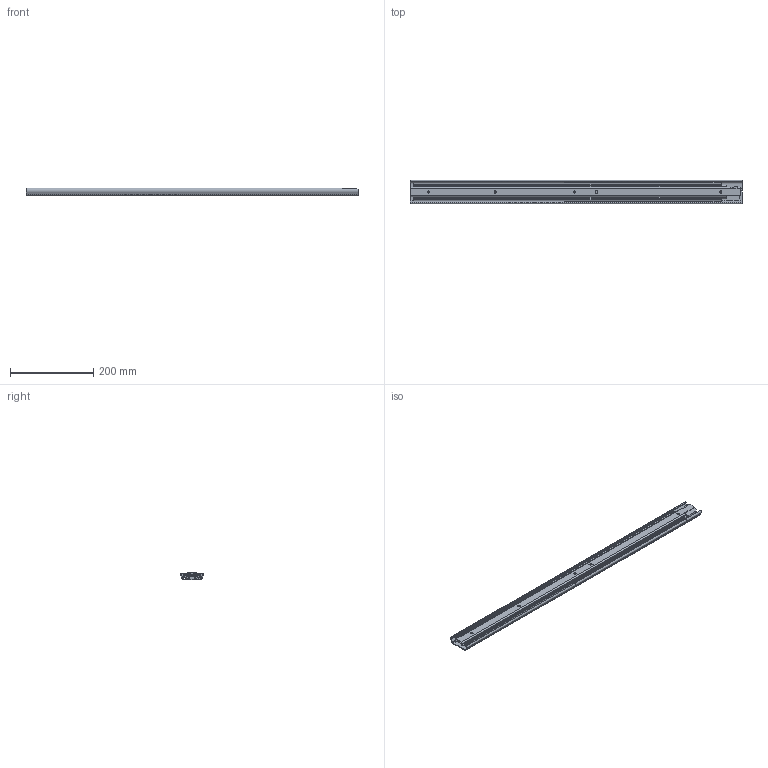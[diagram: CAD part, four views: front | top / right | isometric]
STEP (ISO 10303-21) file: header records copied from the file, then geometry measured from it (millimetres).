
FILE_DESCRIPTION( ( 'STEP AP203' ), '1' );
FILE_NAME( 'C:/Temp/Ganter_Step_05_03_2020/data/3_8/gn1422/Telescopic slide GN 1422-800-B-2-ZB (0).stp', '2020-03-12T15:26:09', ( 'License CC BY-ND 4.0' ), ( 'CADENAS' ), ' ', 'PARTsolutions', ' ' );
FILE_SCHEMA( ( 'CONFIG_CONTROL_DESIGN' ) );
Length unit declared in the file: millimetre
Products named in the file (4): Telescopic slide GN 1422-800-B-2-ZB (0); _Telescopic slide GN 1422-800-B-2-ZB (0)-1; _Telescopic slide GN 1422-800-B-2-ZB (0)-2; _Telescopic slide GN 1422-800-B-2-ZB (0)-3
Assembly tree (3 placements, depth 2):
  Telescopic slide GN 1422-800-B-2-ZB (0)
    _Telescopic slide GN 1422-800-B-2-ZB (0)-1
    _Telescopic slide GN 1422-800-B-2-ZB (0)-2
    _Telescopic slide GN 1422-800-B-2-ZB (0)-3
Bounding box: 800 x 55.78 x 18.5 mm (x, y, z)
Volume: 328670.9 mm3; surface area: 359212.7 mm2
Topology: 3 solids, 3 shells, 326 faces, 956 edges, 627 vertices
Faces by surface type: plane 190, cylinder 126, cone 10
Full cylindrical faces by diameter (mm): 5 x4, 6.5 x6, 11 x3
Entity records: 11002 total; most frequent: CARTESIAN_POINT 2004, ORIENTED_EDGE 1860, DIRECTION 1853, EDGE_CURVE 930, LINE 643, VECTOR 643, VERTEX_POINT 624, AXIS2_PLACEMENT_3D 605
